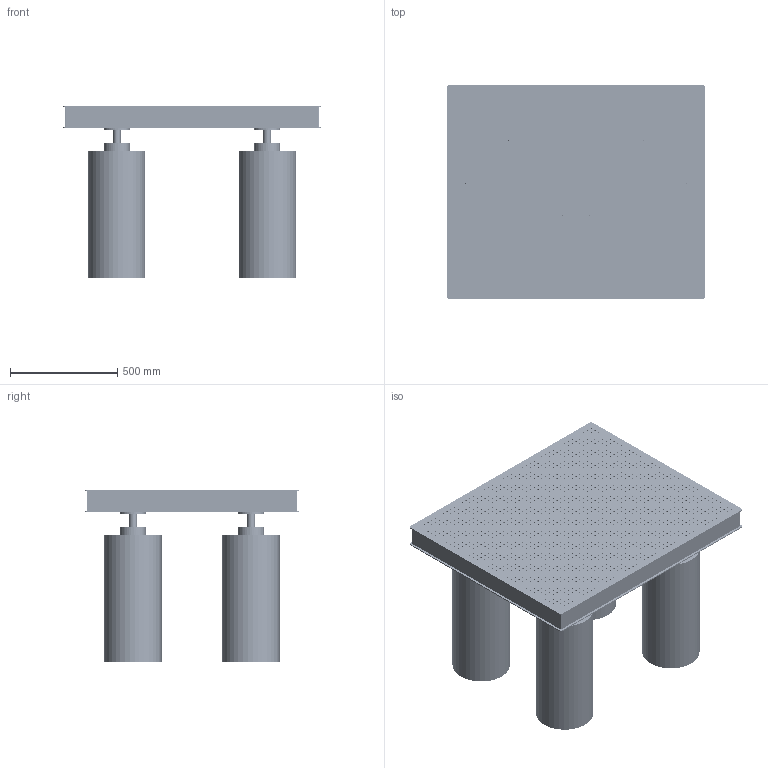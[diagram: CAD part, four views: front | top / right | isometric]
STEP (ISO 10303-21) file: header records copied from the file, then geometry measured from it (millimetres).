
FILE_DESCRIPTION (( 'STEP AP203' ), '1' );
FILE_NAME ('ZDR12-10(AP203).STEP', '2024-04-11T06:15:57', ( 'Windows 蚚誧' ), ( 'Organization' ), 'SwSTEP 2.0', 'SolidWorks 2020', '' );
FILE_SCHEMA (( 'CONFIG_CONTROL_DESIGN' ));
Length unit declared in the file: millimetre
Products named in the file (1): ZDR12-10(AP203)
Bounding box: 1200 x 1000 x 800 mm (x, y, z)
Volume: 147561951.4 mm3; surface area: 8405591.1 mm2
Topology: 34 solids, 34 shells, 3952 faces, 11616 edges, 7744 vertices
Faces by surface type: cylinder 3544, plane 408
Entity records: 142671 total; most frequent: DIRECTION 26610, CARTESIAN_POINT 23313, ORIENTED_EDGE 23232, EDGE_CURVE 11616, AXIS2_PLACEMENT_3D 11041, VERTEX_POINT 7744, EDGE_LOOP 7460, CIRCLE 7088
